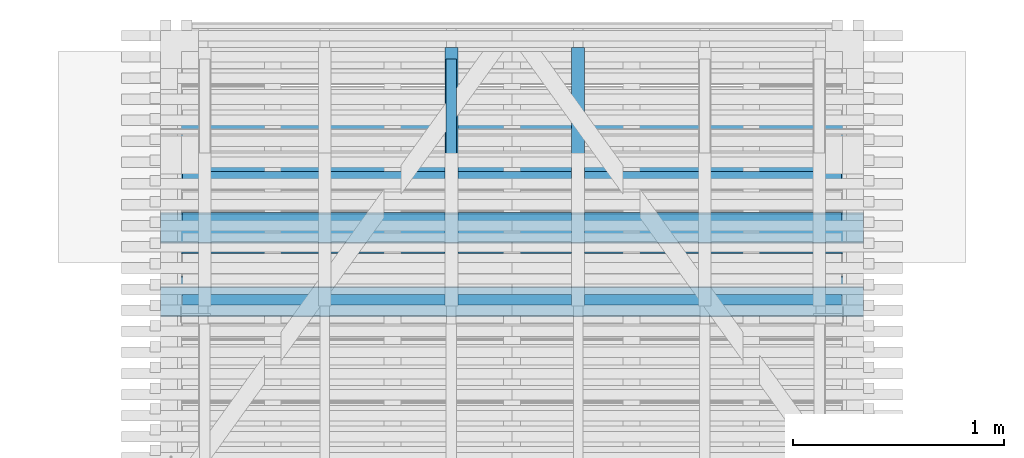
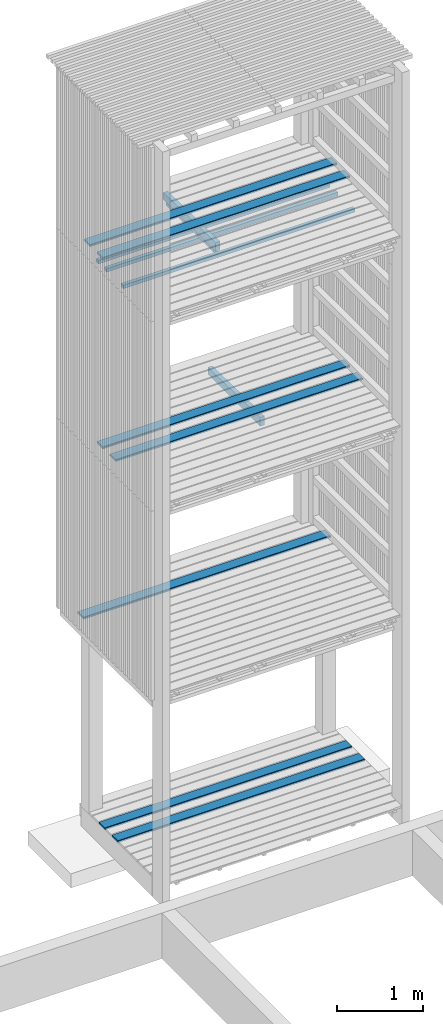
# One storey, part 148 of 182: 13 beams.
"""IFC2X3 building model written with IfcOpenShell, lengths in metres."""

from ifc_helpers import new_model, si_unit, frame, origin, place, context, project, spatial, faceted_brep, element, save


model = new_model("IFC2X3")

# Units and contexts
model_context = context("Model", 3, precision=1e-06, world=origin())
ifc_project = project(units=[si_unit("LENGTHUNIT", "METRE"), si_unit("PLANEANGLEUNIT", "RADIAN")], contexts=[model_context])

# Site, building, storey
site = spatial("IfcSite", under=ifc_project, CompositionType="ELEMENT")
building = spatial("IfcBuilding", under=site, CompositionType="ELEMENT")
storey = spatial("IfcBuildingStorey", under=building, Name="vs", CompositionType="ELEMENT", Elevation=-0.85)

# Beams
placement = place(None, origin())
beam_1_placement = place(placement, frame((36.38499999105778, 11.934577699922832, 5.433499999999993), z_axis=(0.0, 0.0, 1.0), x_axis=(-1.0, -8e-15, 0.0)))
element("IfcBeam", 1, at=beam_1_placement, inside=storey, Name="Caillebotis", context=model_context, shape_type="Brep", body=[
    faceted_brep([(3.329999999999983, -0.072500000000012, -0.0135), (3.329999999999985, 0.072499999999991, -0.0135), (3.329999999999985, 0.072499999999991, 0.0085), (3.329999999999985, 0.067499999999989, 0.0135), (3.329999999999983, -0.067500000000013, 0.0135), (3.329999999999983, -0.072500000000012, 0.008500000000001), (-1.5e-14, -0.072499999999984, 0.008500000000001), (-1.5e-14, -0.067499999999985, 0.0135), (-1.4e-14, 0.067500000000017, 0.0135), (-1.4e-14, 0.072500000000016, 0.0085), (-1.4e-14, 0.072500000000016, -0.0135), (-1.5e-14, -0.072499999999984, -0.0135), (3.329999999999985, 0.072499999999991, 0.0085), (3.329999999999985, 0.072499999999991, -0.0135), (-1.4e-14, 0.072500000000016, -0.0135), (-1.4e-14, 0.072500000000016, 0.0085), (3.329999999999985, 0.067499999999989, 0.0135), (3.329999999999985, 0.072499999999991, 0.0085), (-1.4e-14, 0.072500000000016, 0.0085), (-1.4e-14, 0.067500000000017, 0.0135), (3.329999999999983, -0.067500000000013, 0.0135), (3.329999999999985, 0.067499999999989, 0.0135), (-1.4e-14, 0.067500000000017, 0.0135), (-1.5e-14, -0.067499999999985, 0.0135), (3.329999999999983, -0.072500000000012, 0.008500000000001), (3.329999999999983, -0.067500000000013, 0.0135), (-1.5e-14, -0.067499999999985, 0.0135), (-1.5e-14, -0.072499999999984, 0.008500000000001), (3.329999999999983, -0.072500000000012, -0.0135), (3.329999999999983, -0.072500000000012, 0.008500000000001), (-1.5e-14, -0.072499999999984, 0.008500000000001), (-1.5e-14, -0.072499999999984, -0.0135), (-1.4e-14, 0.072500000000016, -0.0135), (3.329999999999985, 0.072499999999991, -0.0135), (3.329999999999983, -0.072500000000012, -0.0135), (-1.5e-14, -0.072499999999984, -0.0135)], [[[0, 1, 2, 3, 4, 5]], [[6, 7, 8, 9, 10, 11]], [[12, 13, 14, 15]], [[16, 17, 18, 19]], [[20, 21, 22, 23]], [[24, 25, 26, 27]], [[28, 29, 30, 31]], [[32, 33, 34, 35]]]),
])
beam_2_placement = place(placement, frame((34.4329999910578, 12.735077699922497, 7.91739999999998), z_axis=(0.0, 0.0, 1.0), x_axis=(0.0, -1.0, 0.0)))
element("IfcBeam", 2, at=beam_2_placement, inside=storey, Name="Calage", context=model_context, shape_type="Brep", body=[
    faceted_brep([(1.115000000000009, 0.024999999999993, 0.024999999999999), (1.115000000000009, -0.025000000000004, 0.024999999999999), (1.115000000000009, -0.025000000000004, -0.025), (1.115000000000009, 0.024999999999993, -0.025), (0.0, -0.025000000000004, -0.025), (0.0, -0.025000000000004, 0.024999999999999), (0.0, 0.024999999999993, 0.024999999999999), (0.0, 0.024999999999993, -0.025), (1.115000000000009, -0.025000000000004, 0.024999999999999), (1.115000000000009, 0.024999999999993, 0.024999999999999), (0.0, 0.024999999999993, 0.024999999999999), (0.0, -0.025000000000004, 0.024999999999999), (1.115000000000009, -0.025000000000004, -0.025), (1.115000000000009, -0.025000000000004, 0.024999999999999), (0.0, -0.025000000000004, 0.024999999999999), (0.0, -0.025000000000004, -0.025), (1.115000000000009, 0.024999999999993, -0.025), (1.115000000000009, -0.025000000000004, -0.025), (0.0, -0.025000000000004, -0.025), (0.0, 0.024999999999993, -0.025), (0.0, 0.024999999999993, 0.024999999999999), (1.115000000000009, 0.024999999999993, 0.024999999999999), (1.115000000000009, 0.024999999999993, -0.025), (0.0, 0.024999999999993, -0.025)], [[[0, 1, 2, 3]], [[4, 5, 6, 7]], [[8, 9, 10, 11]], [[12, 13, 14, 15]], [[16, 17, 18, 19]], [[20, 21, 22, 23]]]),
])
beam_3_placement = place(placement, frame((36.384999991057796, 12.234577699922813, 8.13349999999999), z_axis=(0.0, 0.0, 1.0), x_axis=(-1.0, 0.0, 0.0)))
element("IfcBeam", 3, at=beam_3_placement, inside=storey, Name="Caillebotis", context=model_context, shape_type="Brep", body=[
    faceted_brep([(3.329999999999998, -0.072499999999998, -0.013500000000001), (3.329999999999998, 0.072499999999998, -0.013500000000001), (3.329999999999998, 0.072499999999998, 0.008499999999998), (3.329999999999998, 0.067500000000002, 0.013499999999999), (3.329999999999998, -0.067500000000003, 0.013499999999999), (3.329999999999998, -0.072499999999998, 0.0085), (0.0, -0.072500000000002, 0.0085), (0.0, -0.067500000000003, 0.013499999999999), (0.0, 0.067499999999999, 0.013499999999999), (0.0, 0.072499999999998, 0.008499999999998), (0.0, 0.072499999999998, -0.013500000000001), (0.0, -0.072500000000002, -0.013500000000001), (3.329999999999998, 0.072499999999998, 0.008499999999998), (3.329999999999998, 0.072499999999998, -0.013500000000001), (0.0, 0.072499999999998, -0.013500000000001), (0.0, 0.072499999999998, 0.008499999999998), (3.329999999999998, 0.067500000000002, 0.013499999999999), (3.329999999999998, 0.072499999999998, 0.008499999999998), (0.0, 0.072499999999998, 0.008499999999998), (0.0, 0.067499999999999, 0.013499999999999), (3.329999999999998, -0.067500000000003, 0.013499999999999), (3.329999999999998, 0.067500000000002, 0.013499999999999), (0.0, 0.067499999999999, 0.013499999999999), (0.0, -0.067500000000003, 0.013499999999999), (3.329999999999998, -0.072499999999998, 0.0085), (3.329999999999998, -0.067500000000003, 0.013499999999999), (0.0, -0.067500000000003, 0.013499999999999), (0.0, -0.072500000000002, 0.0085), (3.329999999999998, -0.072499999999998, -0.013500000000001), (3.329999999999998, -0.072499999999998, 0.0085), (0.0, -0.072500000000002, 0.0085), (0.0, -0.072500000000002, -0.013500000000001), (0.0, 0.072499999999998, -0.013500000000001), (3.329999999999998, 0.072499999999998, -0.013500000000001), (3.329999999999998, -0.072499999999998, -0.013500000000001), (0.0, -0.072500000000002, -0.013500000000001)], [[[0, 1, 2, 3, 4, 5]], [[6, 7, 8, 9, 10, 11]], [[12, 13, 14, 15]], [[16, 17, 18, 19]], [[20, 21, 22, 23]], [[24, 25, 26, 27]], [[28, 29, 30, 31]], [[32, 33, 34, 35]]]),
])
beam_4_placement = place(placement, frame((34.4329999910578, 11.565077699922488, 8.00424999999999), z_axis=(0.0, 0.0, 1.0), x_axis=(0.0, 1.0, 0.0)))
element("IfcBeam", 4, at=beam_4_placement, inside=storey, Name="Solive", context=model_context, shape_type="Brep", body=[
    faceted_brep([(0.0, -0.029999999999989, -0.061849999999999), (1.225000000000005, -0.029999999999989, -0.061849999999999), (1.225000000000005, -0.029999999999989, 0.037349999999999), (0.0, -0.029999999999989, 0.061849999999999), (0.0, 0.029999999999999, -0.061849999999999), (1.225000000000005, 0.029999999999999, -0.061849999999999), (1.225000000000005, -0.029999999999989, -0.061849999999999), (0.0, -0.029999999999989, -0.061849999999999), (0.0, 0.029999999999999, 0.061850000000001), (0.0, 0.029999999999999, -0.061849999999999), (0.0, -0.029999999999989, -0.061849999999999), (0.0, -0.029999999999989, 0.061849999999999), (1.225000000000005, 0.029999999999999, -0.061849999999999), (0.0, 0.029999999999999, -0.061849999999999), (0.0, 0.029999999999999, 0.061850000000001), (1.225000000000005, 0.029999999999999, 0.037349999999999), (1.225000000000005, -0.029999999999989, 0.037349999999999), (1.225000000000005, -0.029999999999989, -0.061849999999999), (1.225000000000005, 0.029999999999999, -0.061849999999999), (1.225000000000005, 0.029999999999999, 0.037349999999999), (0.0, -0.029999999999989, 0.061849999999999), (1.225000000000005, -0.029999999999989, 0.037349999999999), (1.225000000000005, 0.029999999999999, 0.037349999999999), (0.0, 0.029999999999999, 0.061850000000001)], [[[0, 1, 2, 3]], [[4, 5, 6, 7]], [[8, 9, 10, 11]], [[12, 13, 14, 15]], [[16, 17, 18, 19]], [[20, 21, 22, 23]]]),
])
beam_5_placement = place(placement, frame((36.38499999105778, 12.384577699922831, 2.733499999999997), z_axis=(0.0, 0.0, 1.0), x_axis=(-1.0, -1e-14, 0.0)))
element("IfcBeam", 5, at=beam_5_placement, inside=storey, Name="Caillebotis", context=model_context, shape_type="Brep", body=[
    faceted_brep([(3.329999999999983, -0.072500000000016, -0.0135), (3.329999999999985, 0.072499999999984, -0.0135), (3.329999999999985, 0.072499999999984, 0.0085), (3.329999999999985, 0.067499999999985, 0.0135), (3.329999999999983, -0.067500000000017, 0.0135), (3.329999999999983, -0.072500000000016, 0.008500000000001), (-1.5e-14, -0.072499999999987, 0.008500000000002), (-1.5e-14, -0.067499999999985, 0.0135), (-1.4e-14, 0.067500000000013, 0.0135), (-1.4e-14, 0.072500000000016, 0.0085), (-1.4e-14, 0.072500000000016, -0.0135), (-1.5e-14, -0.072499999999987, -0.0135), (3.329999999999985, 0.072499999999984, 0.0085), (3.329999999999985, 0.072499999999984, -0.0135), (-1.4e-14, 0.072500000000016, -0.0135), (-1.4e-14, 0.072500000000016, 0.0085), (3.329999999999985, 0.067499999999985, 0.0135), (3.329999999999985, 0.072499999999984, 0.0085), (-1.4e-14, 0.072500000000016, 0.0085), (-1.4e-14, 0.067500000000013, 0.0135), (3.329999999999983, -0.067500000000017, 0.0135), (3.329999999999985, 0.067499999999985, 0.0135), (-1.4e-14, 0.067500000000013, 0.0135), (-1.5e-14, -0.067499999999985, 0.0135), (3.329999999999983, -0.072500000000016, 0.008500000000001), (3.329999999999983, -0.067500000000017, 0.0135), (-1.5e-14, -0.067499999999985, 0.0135), (-1.5e-14, -0.072499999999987, 0.008500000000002), (3.329999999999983, -0.072500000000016, -0.0135), (3.329999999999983, -0.072500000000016, 0.008500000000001), (-1.5e-14, -0.072499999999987, 0.008500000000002), (-1.5e-14, -0.072499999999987, -0.0135), (-1.4e-14, 0.072500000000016, -0.0135), (3.329999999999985, 0.072499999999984, -0.0135), (3.329999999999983, -0.072500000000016, -0.0135), (-1.5e-14, -0.072499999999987, -0.0135)], [[[0, 1, 2, 3, 4, 5]], [[6, 7, 8, 9, 10, 11]], [[12, 13, 14, 15]], [[16, 17, 18, 19]], [[20, 21, 22, 23]], [[24, 25, 26, 27]], [[28, 29, 30, 31]], [[32, 33, 34, 35]]]),
])
beam_6_placement = place(placement, frame((36.27999999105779, 11.595077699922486, 7.86739999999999), z_axis=(0.0, 0.0, 1.0), x_axis=(-1.0, 0.0, 0.0)))
element("IfcBeam", 6, at=beam_6_placement, inside=storey, Name="Bardage", context=model_context, shape_type="Brep", body=[
    faceted_brep([(-3e-15, 0.024999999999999, -0.024999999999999), (-3e-15, -0.025000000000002, -0.024999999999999), (-3e-15, -0.025000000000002, 0.025000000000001), (-3e-15, 0.024999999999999, 0.025000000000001), (3.120000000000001, -0.025000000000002, 0.025000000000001), (3.120000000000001, -0.025000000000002, -0.024999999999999), (3.120000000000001, 0.025000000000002, -0.024999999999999), (3.120000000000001, 0.025000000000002, 0.025000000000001), (3.120000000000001, -0.025000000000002, -0.024999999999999), (3.120000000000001, -0.025000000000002, 0.025000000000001), (-3e-15, -0.025000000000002, 0.025000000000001), (-3e-15, -0.025000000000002, -0.024999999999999), (3.120000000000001, 0.025000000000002, -0.024999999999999), (3.120000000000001, -0.025000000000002, -0.024999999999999), (-3e-15, -0.025000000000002, -0.024999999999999), (-3e-15, 0.024999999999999, -0.024999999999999), (3.120000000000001, 0.025000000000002, 0.025000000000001), (3.120000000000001, 0.025000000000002, -0.024999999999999), (-3e-15, 0.024999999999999, -0.024999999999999), (-3e-15, 0.024999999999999, 0.025000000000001), (3.120000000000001, -0.025000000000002, 0.025000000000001), (3.120000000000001, 0.025000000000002, 0.025000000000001), (-3e-15, 0.024999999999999, 0.025000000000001), (-3e-15, -0.025000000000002, 0.025000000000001)], [[[0, 1, 2, 3]], [[4, 5, 6, 7]], [[8, 9, 10, 11]], [[12, 13, 14, 15]], [[16, 17, 18, 19]], [[20, 21, 22, 23]]]),
])
beam_7_placement = place(placement, frame((36.38499999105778, 11.884577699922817, 0.033500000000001), z_axis=(0.0, 0.0, 1.0), x_axis=(-1.0, -1e-15, 0.0)))
element("IfcBeam", 7, at=beam_7_placement, inside=storey, Name="Caillebotis", context=model_context, shape_type="Brep", body=[
    faceted_brep([(3.329999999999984, -0.067500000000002, 0.0135), (3.329999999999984, -0.072500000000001, 0.008500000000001), (3.329999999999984, -0.072500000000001, -0.013500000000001), (3.329999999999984, 0.072499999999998, -0.013500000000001), (3.329999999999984, 0.072499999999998, 0.0085), (3.329999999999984, 0.067499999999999, 0.0135), (0.0, 0.0675, 0.0135), (0.0, 0.072500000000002, 0.0085), (0.0, 0.072500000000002, -0.013500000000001), (0.0, -0.072500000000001, -0.013500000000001), (0.0, -0.072500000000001, 0.008500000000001), (0.0, -0.067499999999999, 0.0135), (3.329999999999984, -0.072500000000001, -0.013500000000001), (3.329999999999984, -0.072500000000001, 0.008500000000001), (0.0, -0.072500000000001, 0.008500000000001), (0.0, -0.072500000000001, -0.013500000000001), (3.329999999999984, 0.072499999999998, -0.013500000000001), (3.329999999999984, -0.072500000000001, -0.013500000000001), (0.0, -0.072500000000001, -0.013500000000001), (0.0, 0.072500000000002, -0.013500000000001), (3.329999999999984, 0.072499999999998, 0.0085), (3.329999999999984, 0.072499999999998, -0.013500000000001), (0.0, 0.072500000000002, -0.013500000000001), (0.0, 0.072500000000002, 0.0085), (3.329999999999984, 0.067499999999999, 0.0135), (3.329999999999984, 0.072499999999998, 0.0085), (0.0, 0.072500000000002, 0.0085), (0.0, 0.0675, 0.0135), (3.329999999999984, -0.067500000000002, 0.0135), (3.329999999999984, 0.067499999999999, 0.0135), (0.0, 0.0675, 0.0135), (0.0, -0.067499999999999, 0.0135), (0.0, -0.072500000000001, 0.008500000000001), (3.329999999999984, -0.072500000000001, 0.008500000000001), (3.329999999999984, -0.067500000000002, 0.0135), (0.0, -0.067499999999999, 0.0135)], [[[0, 1, 2, 3, 4, 5]], [[6, 7, 8, 9, 10, 11]], [[12, 13, 14, 15]], [[16, 17, 18, 19]], [[20, 21, 22, 23]], [[24, 25, 26, 27]], [[28, 29, 30, 31]], [[32, 33, 34, 35]]]),
])
beam_8_placement = place(placement, frame((35.03299999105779, 11.565077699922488, 5.304249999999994), z_axis=(0.0, 0.0, 1.0), x_axis=(0.0, 1.0, 0.0)))
element("IfcBeam", 8, at=beam_8_placement, inside=storey, Name="Solive", context=model_context, shape_type="Brep", body=[
    faceted_brep([(0.0, -0.030000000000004, -0.061849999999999), (1.225000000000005, -0.030000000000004, -0.061849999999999), (1.225000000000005, -0.030000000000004, 0.03735), (0.0, -0.030000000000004, 0.06185), (0.0, 0.029999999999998, 0.061850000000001), (0.0, 0.029999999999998, -0.061849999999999), (0.0, -0.030000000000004, -0.061849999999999), (0.0, -0.030000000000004, 0.06185), (0.0, -0.030000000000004, -0.061849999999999), (0.0, 0.029999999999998, -0.061849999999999), (1.225000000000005, 0.029999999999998, -0.061849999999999), (1.225000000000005, -0.030000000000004, -0.061849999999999), (1.225000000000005, 0.029999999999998, -0.061849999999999), (0.0, 0.029999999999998, -0.061849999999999), (0.0, 0.029999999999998, 0.061850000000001), (1.225000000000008, 0.029999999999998, 0.03735), (1.225000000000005, -0.030000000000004, 0.03735), (1.225000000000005, -0.030000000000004, -0.061849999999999), (1.225000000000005, 0.029999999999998, -0.061849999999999), (1.225000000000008, 0.029999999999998, 0.03735), (0.0, -0.030000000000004, 0.06185), (1.225000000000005, -0.030000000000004, 0.03735), (1.225000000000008, 0.029999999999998, 0.03735), (0.0, 0.029999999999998, 0.061850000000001)], [[[0, 1, 2, 3]], [[4, 5, 6, 7]], [[8, 9, 10, 11]], [[12, 13, 14, 15]], [[16, 17, 18, 19]], [[20, 21, 22, 23]]]),
])
beam_9_placement = place(placement, frame((36.38499999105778, 11.584577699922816, 0.033500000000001), z_axis=(0.0, 0.0, 1.0), x_axis=(-1.0, 0.0, 0.0)))
element("IfcBeam", 9, at=beam_9_placement, inside=storey, Name="Caillebotis", context=model_context, shape_type="Brep", body=[
    faceted_brep([(3.329999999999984, -0.067500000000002, 0.0135), (3.329999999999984, -0.072499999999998, 0.008500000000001), (3.329999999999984, -0.072499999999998, -0.013500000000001), (3.329999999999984, 0.072500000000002, -0.013500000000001), (3.329999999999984, 0.072499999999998, 0.0085), (3.329999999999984, 0.067500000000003, 0.0135), (0.0, 0.067500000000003, 0.0135), (0.0, 0.072499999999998, 0.0085), (0.0, 0.072499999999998, -0.013500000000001), (0.0, -0.072500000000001, -0.013500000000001), (0.0, -0.072500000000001, 0.008500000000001), (0.0, -0.067500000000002, 0.0135), (3.329999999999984, -0.072499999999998, -0.013500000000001), (3.329999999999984, -0.072499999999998, 0.008500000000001), (0.0, -0.072500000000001, 0.008500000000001), (0.0, -0.072500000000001, -0.013500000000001), (3.329999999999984, 0.072500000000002, -0.013500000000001), (3.329999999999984, -0.072499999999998, -0.013500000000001), (0.0, -0.072500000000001, -0.013500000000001), (0.0, 0.072499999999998, -0.013500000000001), (3.329999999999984, 0.072499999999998, 0.0085), (3.329999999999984, 0.072500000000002, -0.013500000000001), (0.0, 0.072499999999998, -0.013500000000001), (0.0, 0.072499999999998, 0.0085), (3.329999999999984, 0.067500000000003, 0.0135), (3.329999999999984, 0.072499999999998, 0.0085), (0.0, 0.072499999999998, 0.0085), (0.0, 0.067500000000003, 0.0135), (3.329999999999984, -0.067500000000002, 0.0135), (3.329999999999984, 0.067500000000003, 0.0135), (0.0, 0.067500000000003, 0.0135), (0.0, -0.067500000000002, 0.0135), (0.0, -0.072500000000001, 0.008500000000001), (3.329999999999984, -0.072499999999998, 0.008500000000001), (3.329999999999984, -0.067500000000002, 0.0135), (0.0, -0.067500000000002, 0.0135)], [[[0, 1, 2, 3, 4, 5]], [[6, 7, 8, 9, 10, 11]], [[12, 13, 14, 15]], [[16, 17, 18, 19]], [[20, 21, 22, 23]], [[24, 25, 26, 27]], [[28, 29, 30, 31]], [[32, 33, 34, 35]]]),
])
beam_10_placement = place(placement, frame((36.27999999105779, 12.177577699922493, 7.86739999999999), z_axis=(0.0, 0.0, 1.0), x_axis=(-1.0, -1e-15, 0.0)))
element("IfcBeam", 10, at=beam_10_placement, inside=storey, Name="Bardage", context=model_context, shape_type="Brep", body=[
    faceted_brep([(3.119999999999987, -0.025000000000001, 0.025000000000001), (3.119999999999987, -0.025000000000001, -0.024999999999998), (3.120000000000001, 0.024999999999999, -0.024999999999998), (3.120000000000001, 0.024999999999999, 0.025000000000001), (-3e-15, -0.024999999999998, 0.025000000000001), (-3e-15, 0.025000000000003, 0.025000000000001), (-3e-15, 0.025000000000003, -0.024999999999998), (-3e-15, -0.024999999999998, -0.024999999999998), (-3e-15, 0.025000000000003, 0.025000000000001), (-3e-15, -0.024999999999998, 0.025000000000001), (3.119999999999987, -0.025000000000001, 0.025000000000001), (3.120000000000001, 0.024999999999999, 0.025000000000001), (3.120000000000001, 0.024999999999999, 0.025000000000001), (3.120000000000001, 0.024999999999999, -0.024999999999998), (-3e-15, 0.025000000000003, -0.024999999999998), (-3e-15, 0.025000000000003, 0.025000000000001), (3.119999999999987, -0.025000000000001, -0.024999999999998), (3.119999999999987, -0.025000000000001, 0.025000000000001), (-3e-15, -0.024999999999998, 0.025000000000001), (-3e-15, -0.024999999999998, -0.024999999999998), (3.120000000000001, 0.024999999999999, -0.024999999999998), (3.119999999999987, -0.025000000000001, -0.024999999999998), (-3e-15, -0.024999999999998, -0.024999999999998), (-3e-15, 0.025000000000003, -0.024999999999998)], [[[0, 1, 2, 3]], [[4, 5, 6, 7]], [[8, 9, 10, 11]], [[12, 13, 14, 15]], [[16, 17, 18, 19]], [[20, 21, 22, 23]]]),
])
beam_11_placement = place(placement, frame((36.38499999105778, 11.634577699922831, 5.433499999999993), z_axis=(0.0, 0.0, 1.0), x_axis=(-1.0, -1e-14, 0.0)))
element("IfcBeam", 11, at=beam_11_placement, inside=storey, Name="Caillebotis", context=model_context, shape_type="Brep", body=[
    faceted_brep([(3.329999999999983, -0.072500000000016, -0.0135), (3.329999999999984, 0.072499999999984, -0.0135), (3.329999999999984, 0.072499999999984, 0.0085), (3.329999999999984, 0.067499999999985, 0.0135), (3.329999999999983, -0.067500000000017, 0.0135), (3.329999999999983, -0.072500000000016, 0.008500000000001), (-1.5e-14, -0.072499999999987, 0.008500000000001), (-1.5e-14, -0.067499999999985, 0.0135), (-1.4e-14, 0.067500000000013, 0.0135), (-1.4e-14, 0.072500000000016, 0.0085), (-1.4e-14, 0.072500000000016, -0.0135), (-1.5e-14, -0.072499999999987, -0.0135), (3.329999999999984, 0.072499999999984, 0.0085), (3.329999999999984, 0.072499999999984, -0.0135), (-1.4e-14, 0.072500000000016, -0.0135), (-1.4e-14, 0.072500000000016, 0.0085), (3.329999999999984, 0.067499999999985, 0.0135), (3.329999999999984, 0.072499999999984, 0.0085), (-1.4e-14, 0.072500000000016, 0.0085), (-1.4e-14, 0.067500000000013, 0.0135), (3.329999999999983, -0.067500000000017, 0.0135), (3.329999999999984, 0.067499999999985, 0.0135), (-1.4e-14, 0.067500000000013, 0.0135), (-1.5e-14, -0.067499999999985, 0.0135), (3.329999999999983, -0.072500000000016, 0.008500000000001), (3.329999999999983, -0.067500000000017, 0.0135), (-1.5e-14, -0.067499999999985, 0.0135), (-1.5e-14, -0.072499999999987, 0.008500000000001), (3.329999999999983, -0.072500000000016, -0.0135), (3.329999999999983, -0.072500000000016, 0.008500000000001), (-1.5e-14, -0.072499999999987, 0.008500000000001), (-1.5e-14, -0.072499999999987, -0.0135), (-1.4e-14, 0.072500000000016, -0.0135), (3.329999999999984, 0.072499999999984, -0.0135), (3.329999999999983, -0.072500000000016, -0.0135), (-1.5e-14, -0.072499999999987, -0.0135)], [[[0, 1, 2, 3, 4, 5]], [[6, 7, 8, 9, 10, 11]], [[12, 13, 14, 15]], [[16, 17, 18, 19]], [[20, 21, 22, 23]], [[24, 25, 26, 27]], [[28, 29, 30, 31]], [[32, 33, 34, 35]]]),
])
beam_12_placement = place(placement, frame((36.384999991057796, 11.934577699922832, 8.13349999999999), z_axis=(0.0, 0.0, 1.0), x_axis=(-1.0, -8e-15, 0.0)))
element("IfcBeam", 12, at=beam_12_placement, inside=storey, Name="Caillebotis", context=model_context, shape_type="Brep", body=[
    faceted_brep([(3.329999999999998, -0.072500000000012, -0.013500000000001), (3.329999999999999, 0.072499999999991, -0.013500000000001), (3.329999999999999, 0.072499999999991, 0.008499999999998), (3.329999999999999, 0.067499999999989, 0.013499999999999), (3.329999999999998, -0.067500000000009, 0.013499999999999), (3.329999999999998, -0.072500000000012, 0.0085), (-1e-15, -0.072499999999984, 0.0085), (-1e-15, -0.067499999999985, 0.013499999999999), (1e-15, 0.067500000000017, 0.013499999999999), (1e-15, 0.072500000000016, 0.008499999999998), (1e-15, 0.072500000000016, -0.013500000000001), (-1e-15, -0.072499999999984, -0.013500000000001), (3.329999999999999, 0.072499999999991, 0.008499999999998), (3.329999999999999, 0.072499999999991, -0.013500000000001), (1e-15, 0.072500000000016, -0.013500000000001), (1e-15, 0.072500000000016, 0.008499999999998), (3.329999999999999, 0.067499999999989, 0.013499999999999), (3.329999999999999, 0.072499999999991, 0.008499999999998), (1e-15, 0.072500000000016, 0.008499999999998), (1e-15, 0.067500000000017, 0.013499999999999), (3.329999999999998, -0.067500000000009, 0.013499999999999), (3.329999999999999, 0.067499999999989, 0.013499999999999), (1e-15, 0.067500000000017, 0.013499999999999), (-1e-15, -0.067499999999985, 0.013499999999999), (3.329999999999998, -0.072500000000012, 0.0085), (3.329999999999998, -0.067500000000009, 0.013499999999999), (-1e-15, -0.067499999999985, 0.013499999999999), (-1e-15, -0.072499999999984, 0.0085), (3.329999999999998, -0.072500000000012, -0.013500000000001), (3.329999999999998, -0.072500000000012, 0.0085), (-1e-15, -0.072499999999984, 0.0085), (-1e-15, -0.072499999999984, -0.013500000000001), (1e-15, 0.072500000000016, -0.013500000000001), (3.329999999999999, 0.072499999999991, -0.013500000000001), (3.329999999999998, -0.072500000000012, -0.013500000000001), (-1e-15, -0.072499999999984, -0.013500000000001)], [[[0, 1, 2, 3, 4, 5]], [[6, 7, 8, 9, 10, 11]], [[12, 13, 14, 15]], [[16, 17, 18, 19]], [[20, 21, 22, 23]], [[24, 25, 26, 27]], [[28, 29, 30, 31]], [[32, 33, 34, 35]]]),
])
beam_13_placement = place(placement, frame((36.27999999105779, 11.983411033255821, 7.86739999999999), z_axis=(0.0, 0.0, 1.0), x_axis=(-1.0, 0.0, 0.0)))
element("IfcBeam", 13, at=beam_13_placement, inside=storey, Name="Bardage", context=model_context, shape_type="Brep", body=[
    faceted_brep([(3.120000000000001, 0.025000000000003, -0.024999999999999), (3.120000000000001, 0.025000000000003, 0.025000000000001), (3.120000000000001, -0.025000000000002, 0.025000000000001), (3.120000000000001, -0.025000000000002, -0.024999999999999), (-3e-15, -0.025000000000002, -0.024999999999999), (-3e-15, -0.025000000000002, 0.025000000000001), (-3e-15, 0.024999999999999, 0.025000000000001), (-3e-15, 0.024999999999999, -0.024999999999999), (-3e-15, 0.024999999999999, -0.024999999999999), (-3e-15, 0.024999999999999, 0.025000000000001), (3.120000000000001, 0.025000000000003, 0.025000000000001), (3.120000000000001, 0.025000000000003, -0.024999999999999), (-3e-15, 0.024999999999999, 0.025000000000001), (-3e-15, -0.025000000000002, 0.025000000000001), (3.120000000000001, -0.025000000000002, 0.025000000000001), (3.120000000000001, 0.025000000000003, 0.025000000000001), (-3e-15, -0.025000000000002, 0.025000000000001), (-3e-15, -0.025000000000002, -0.024999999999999), (3.120000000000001, -0.025000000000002, -0.024999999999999), (3.120000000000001, -0.025000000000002, 0.025000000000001), (-3e-15, -0.025000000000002, -0.024999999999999), (-3e-15, 0.024999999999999, -0.024999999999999), (3.120000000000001, 0.025000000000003, -0.024999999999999), (3.120000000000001, -0.025000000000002, -0.024999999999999)], [[[0, 1, 2, 3]], [[4, 5, 6, 7]], [[8, 9, 10, 11]], [[12, 13, 14, 15]], [[16, 17, 18, 19]], [[20, 21, 22, 23]]]),
])

save(model, "model.ifc")
